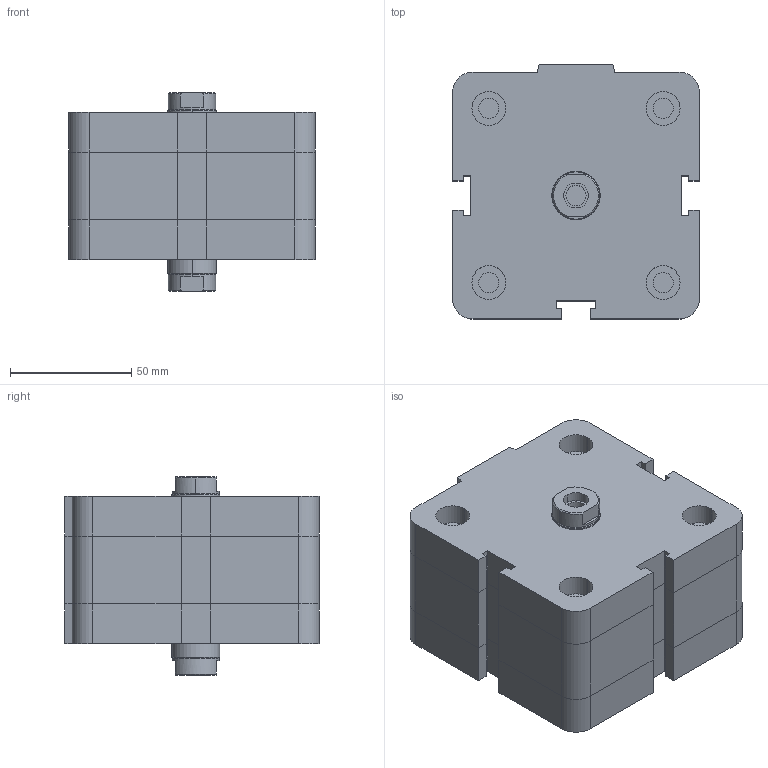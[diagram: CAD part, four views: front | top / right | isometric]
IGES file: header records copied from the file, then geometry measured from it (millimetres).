
Global section: file name: No Iges File Name specified; native system: Autodesk Inventor 2009; preprocessor: AutoDesk Inventor Iges Exporter R2009; author: maffial1; date: 20090420.200427; units: millimetre
Bounding box: 102 x 105 x 82 mm (x, y, z)
Volume: 603975.1 mm3; surface area: 65187.9 mm2
Topology: 2 solids, 2 shells, 202 faces, 450 edges, 274 vertices
Faces by surface type: plane 114, bspline 42, revolution 20, cylinder 18, cone 8
